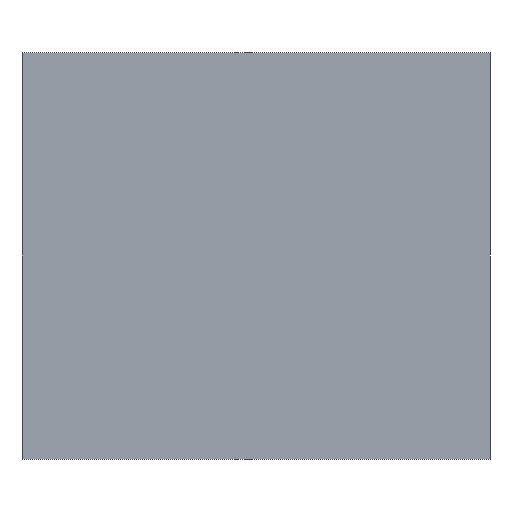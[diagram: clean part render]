
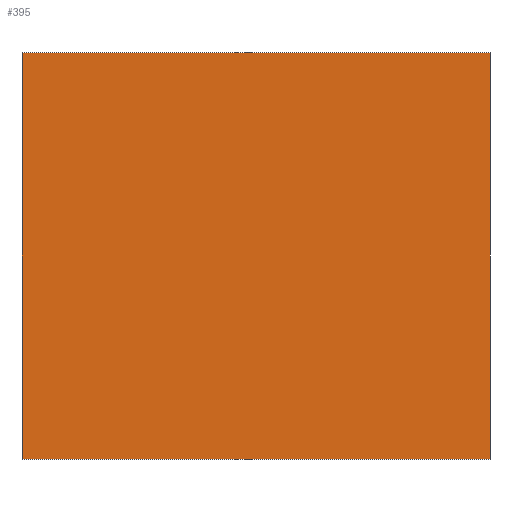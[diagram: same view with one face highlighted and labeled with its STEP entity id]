
A CAD part, front view. The second image highlights one B-rep face of the part: STEP entity #395.
In plain terms, the highlighted planar face has unit normal (0, -1, 0).
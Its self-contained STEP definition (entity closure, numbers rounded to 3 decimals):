
#116=DIRECTION('',(0.,0.,1.));
#117=VECTOR('',#116,145.);
#118=CARTESIAN_POINT('',(-83.375,0.,-72.5));
#119=LINE('',#118,#117);
#120=DIRECTION('',(1.,0.,0.));
#121=VECTOR('',#120,166.75);
#122=CARTESIAN_POINT('',(-83.375,0.,72.5));
#123=LINE('',#122,#121);
#124=DIRECTION('',(0.,0.,-1.));
#125=VECTOR('',#124,145.);
#126=CARTESIAN_POINT('',(83.375,0.,72.5));
#127=LINE('',#126,#125);
#128=DIRECTION('',(-1.,0.,0.));
#129=VECTOR('',#128,166.75);
#130=CARTESIAN_POINT('',(83.375,0.,-72.5));
#131=LINE('',#130,#129);
#316=CARTESIAN_POINT('',(-83.375,0.,-72.5));
#317=CARTESIAN_POINT('',(-83.375,0.,72.5));
#318=VERTEX_POINT('',#316);
#319=VERTEX_POINT('',#317);
#320=CARTESIAN_POINT('',(83.375,0.,72.5));
#321=VERTEX_POINT('',#320);
#322=CARTESIAN_POINT('',(83.375,0.,-72.5));
#323=VERTEX_POINT('',#322);
#380=CARTESIAN_POINT('',(0.,0.,0.));
#381=DIRECTION('',(0.,1.,0.));
#382=DIRECTION('',(1.,0.,0.));
#383=AXIS2_PLACEMENT_3D('',#380,#381,#382);
#384=PLANE('',#383);
#386=ORIENTED_EDGE('',*,*,#385,.T.);
#388=ORIENTED_EDGE('',*,*,#387,.T.);
#390=ORIENTED_EDGE('',*,*,#389,.T.);
#392=ORIENTED_EDGE('',*,*,#391,.T.);
#393=EDGE_LOOP('',(#386,#388,#390,#392));
#394=FACE_OUTER_BOUND('',#393,.F.);
#385=EDGE_CURVE('',#318,#319,#119,.T.);
#387=EDGE_CURVE('',#319,#321,#123,.T.);
#389=EDGE_CURVE('',#321,#323,#127,.T.);
#391=EDGE_CURVE('',#323,#318,#131,.T.);
#395=ADVANCED_FACE('',(#394),#384,.F.);
